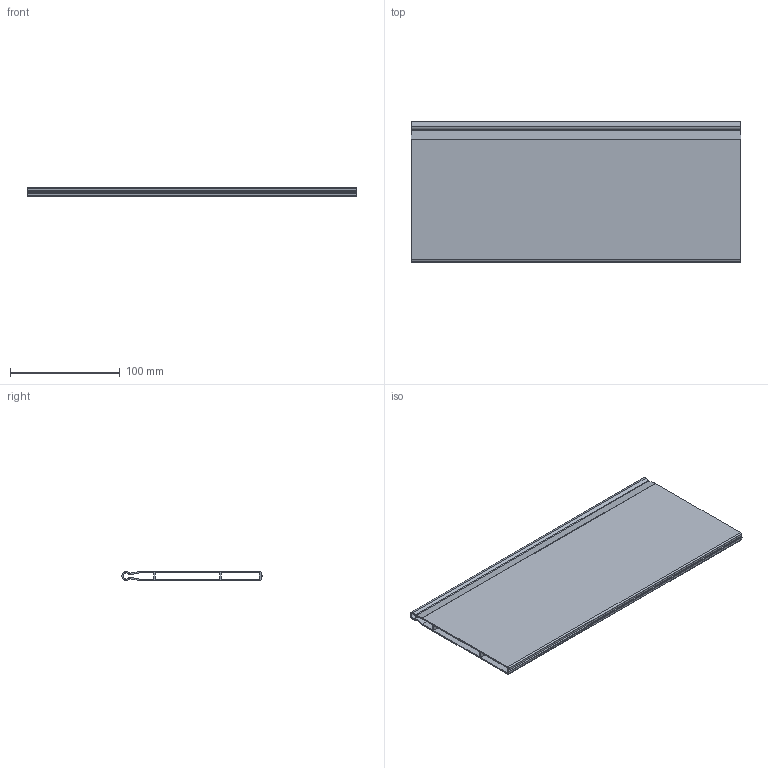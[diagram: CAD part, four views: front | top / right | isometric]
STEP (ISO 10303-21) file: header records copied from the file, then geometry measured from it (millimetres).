
FILE_DESCRIPTION (( 'STEP AP214' ), '1' );
FILE_NAME ('_Magic Optima Unterteilungsprofil DWD XP Agantis_Nova Pro KAB 450.step', '2010-08-17T12:26:44', ( 'grass' ), ( '' ), 'SwSTEP 2.0', 'SolidWorks 2010', '' );
FILE_SCHEMA (( 'AUTOMOTIVE_DESIGN' ));
Length unit declared in the file: millimetre
Products named in the file (1): _Magic Optima Unterteilungsprofil DWD XP Agantis_Nova Pro  KAB 450
Bounding box: 300 x 127.7 x 8.1 mm (x, y, z)
Volume: 105157 mm3; surface area: 163360.6 mm2
Topology: 1 solids, 1 shells, 39 faces, 111 edges, 74 vertices
Faces by surface type: plane 22, cylinder 17
Entity records: 1325 total; most frequent: CARTESIAN_POINT 225, DIRECTION 225, ORIENTED_EDGE 222, EDGE_CURVE 111, LINE 77, VECTOR 77, AXIS2_PLACEMENT_3D 74, VERTEX_POINT 74
